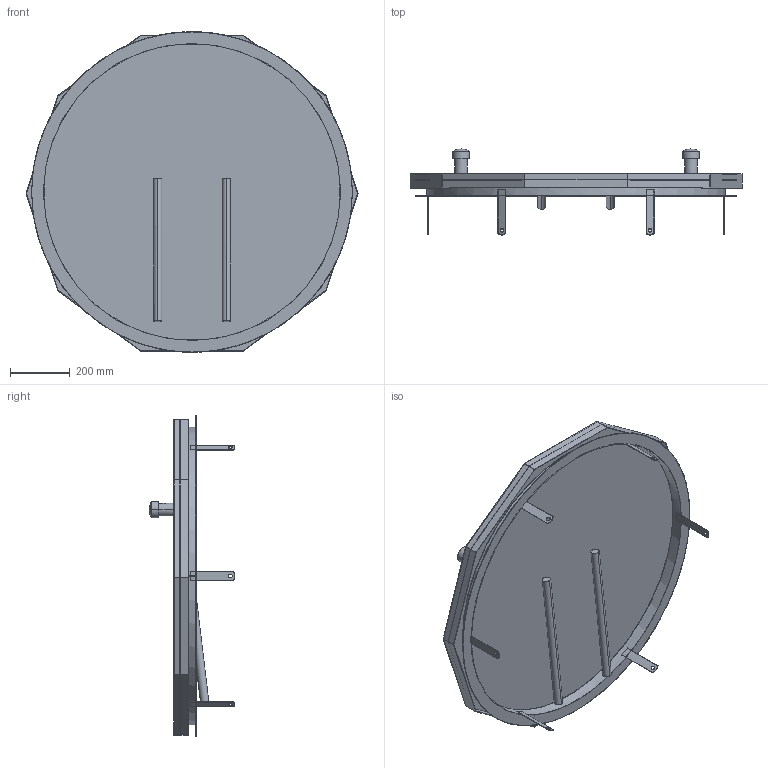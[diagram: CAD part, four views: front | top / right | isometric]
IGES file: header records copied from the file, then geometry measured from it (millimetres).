
Start section:  PTC IGES file: 51205868-003.igs
Global section: file name: 51205868-003.igs; native system: Creo Parametric by Parametric Technology Corporation; preprocessor: 2017170; author: gm; organization: Unknown; date: 20180502.095542; units: millimetre
Bounding box: 1112.45 x 287.25 x 1074.26 mm (x, y, z)
Surface area: 4622011.3 mm2 (no closed solid volume)
Topology: 0 solids, 0 shells, 114 faces, 588 edges, 584 vertices
Faces by surface type: bspline 74, revolution 40
